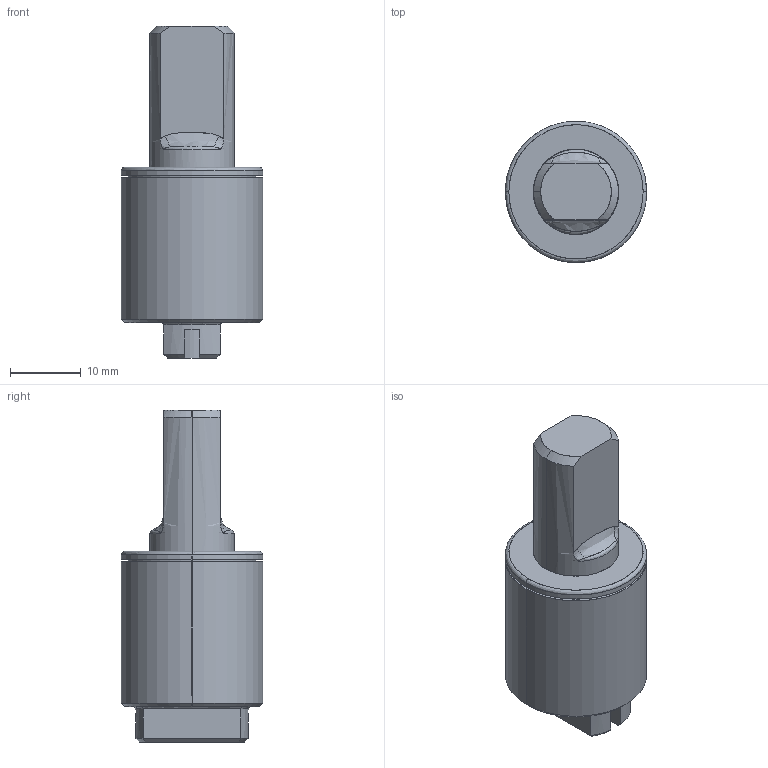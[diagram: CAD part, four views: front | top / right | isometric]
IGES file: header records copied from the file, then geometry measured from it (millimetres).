
Start section: SolidWorks IGES file using analytic representation for surfaces
Bounding box: 20 x 20 x 47 mm (x, y, z)
Surface area: 3347.2 mm2 (no closed solid volume)
Topology: 0 solids, 0 shells, 56 faces, 663 edges, 663 vertices
Faces by surface type: bspline 31, revolution 25
